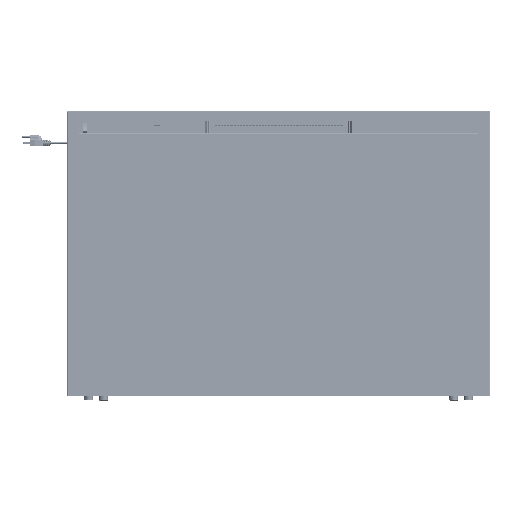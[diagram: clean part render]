
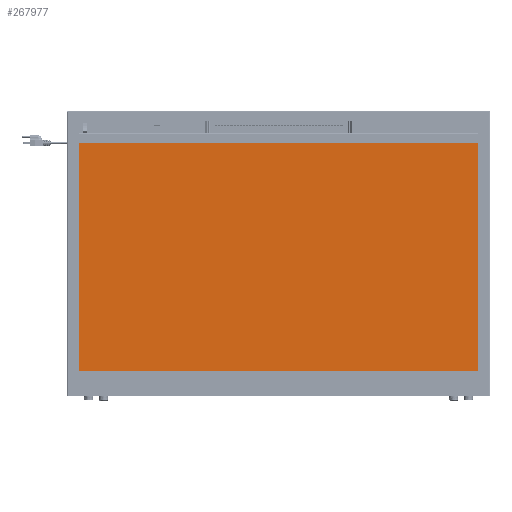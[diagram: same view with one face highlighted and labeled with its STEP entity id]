
A CAD part, top view. The second image highlights one B-rep face of the part: STEP entity #267977.
In plain terms, the highlighted planar face has unit normal (0, 0, 1).
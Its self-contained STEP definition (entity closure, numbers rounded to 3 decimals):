
#267609=DIRECTION('',(0.,1.,0.));
#267610=VECTOR('',#267609,579.);
#267611=CARTESIAN_POINT('',(-501.,38.3,147.791));
#267612=LINE('',#267611,#267610);
#267651=DIRECTION('',(0.707,-0.707,
0.));
#267652=VECTOR('',#267651,55.154);
#267653=CARTESIAN_POINT('',(-501.,38.3,147.791));
#267654=LINE('',#267653,#267652);
#267655=CARTESIAN_POINT('',(-497.,617.3,147.791));
#267656=DIRECTION('',(0.,0.,1.));
#267657=DIRECTION('',(0.,1.,0.));
#267658=AXIS2_PLACEMENT_3D('',#267655,#267656,#267657);
#267660=CARTESIAN_POINT('',(497.,617.3,147.791));
#267661=DIRECTION('',(0.,0.,1.));
#267662=DIRECTION('',(1.,0.,0.));
#267663=AXIS2_PLACEMENT_3D('',#267660,#267661,#267662);
#267665=DIRECTION('',(0.707,0.707,0.));
#267666=VECTOR('',#267665,55.154);
#267667=CARTESIAN_POINT('',(462.,-0.7,147.791));
#267668=LINE('',#267667,#267666);
#267669=DIRECTION('',(1.,0.,0.));
#267670=VECTOR('',#267669,924.);
#267671=CARTESIAN_POINT('',(-462.,-0.7,147.791));
#267672=LINE('',#267671,#267670);
#267752=DIRECTION('',(0.,-1.,0.));
#267753=VECTOR('',#267752,579.);
#267754=CARTESIAN_POINT('',(501.,617.3,147.791));
#267755=LINE('',#267754,#267753);
#267769=DIRECTION('',(1.,0.,0.));
#267770=VECTOR('',#267769,994.);
#267771=CARTESIAN_POINT('',(-497.,621.3,147.791));
#267772=LINE('',#267771,#267770);
#267821=CARTESIAN_POINT('',(-501.,38.3,147.791));
#267822=VERTEX_POINT('',#267821);
#267823=CARTESIAN_POINT('',(-462.,-0.7,147.791));
#267824=VERTEX_POINT('',#267823);
#267835=CARTESIAN_POINT('',(462.,-0.7,147.791));
#267836=VERTEX_POINT('',#267835);
#267837=CARTESIAN_POINT('',(501.,38.3,147.791));
#267838=VERTEX_POINT('',#267837);
#267841=CARTESIAN_POINT('',(-501.,617.3,147.791));
#267842=VERTEX_POINT('',#267841);
#267843=CARTESIAN_POINT('',(-497.,621.3,147.791));
#267844=VERTEX_POINT('',#267843);
#267845=CARTESIAN_POINT('',(497.,621.3,147.791));
#267846=VERTEX_POINT('',#267845);
#267847=CARTESIAN_POINT('',(501.,617.3,147.791));
#267848=VERTEX_POINT('',#267847);
#267957=CARTESIAN_POINT('',(0.,310.3,147.791));
#267958=DIRECTION('',(0.,0.,1.));
#267959=DIRECTION('',(1.,0.,0.));
#267960=AXIS2_PLACEMENT_3D('',#267957,#267958,#267959);
#267961=PLANE('',#267960);
#267962=ORIENTED_EDGE('',*,*,#267892,.F.);
#267963=ORIENTED_EDGE('',*,*,#267868,.T.);
#267965=ORIENTED_EDGE('',*,*,#267964,.F.);
#267967=ORIENTED_EDGE('',*,*,#267966,.T.);
#267969=ORIENTED_EDGE('',*,*,#267968,.F.);
#267971=ORIENTED_EDGE('',*,*,#267970,.T.);
#267973=ORIENTED_EDGE('',*,*,#267972,.F.);
#267974=ORIENTED_EDGE('',*,*,#267942,.F.);
#267975=EDGE_LOOP('',(#267962,#267963,#267965,#267967,#267969,#267971,#267973,
#267974));
#267976=FACE_OUTER_BOUND('',#267975,.F.);
#267977=ADVANCED_FACE('',(#267976),#267961,.T.);
#267659=CIRCLE('',#267658,4.);
#267664=CIRCLE('',#267663,4.);
#267868=EDGE_CURVE('',#267822,#267842,#267612,.T.);
#267892=EDGE_CURVE('',#267822,#267824,#267654,.T.);
#267942=EDGE_CURVE('',#267824,#267836,#267672,.T.);
#267964=EDGE_CURVE('',#267844,#267842,#267659,.T.);
#267966=EDGE_CURVE('',#267844,#267846,#267772,.T.);
#267968=EDGE_CURVE('',#267848,#267846,#267664,.T.);
#267970=EDGE_CURVE('',#267848,#267838,#267755,.T.);
#267972=EDGE_CURVE('',#267836,#267838,#267668,.T.);
